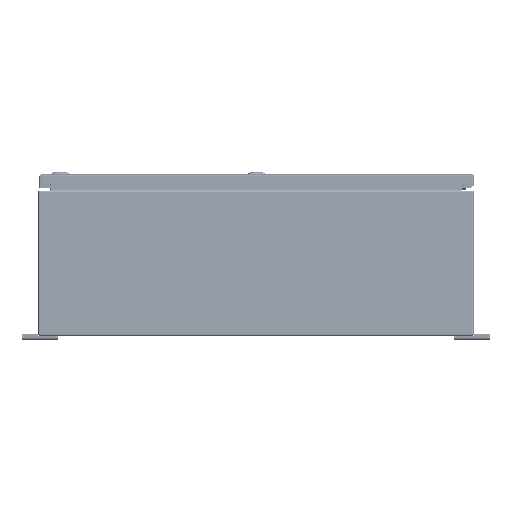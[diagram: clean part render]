
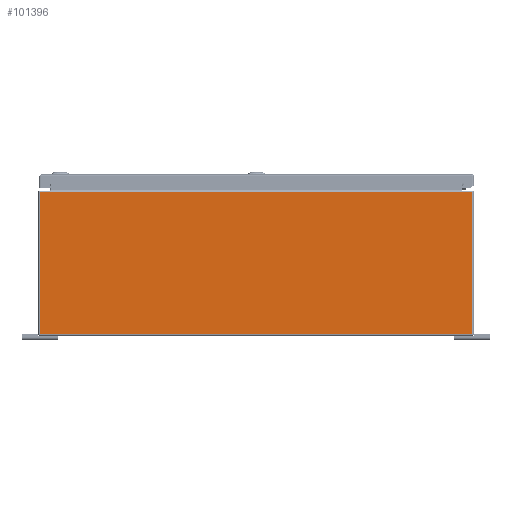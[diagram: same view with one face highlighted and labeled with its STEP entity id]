
A CAD part, left-side view. The second image highlights one B-rep face of the part: STEP entity #101396.
In plain terms, the highlighted planar face has unit normal (-1, 0, 0).
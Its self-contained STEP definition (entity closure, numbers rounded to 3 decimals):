
#6274=PLANE('',#108601);
#8816=LINE('',#143007,#16765);
#8817=LINE('',#143011,#16766);
#8818=LINE('',#143013,#16767);
#8819=LINE('',#143015,#16768);
#8820=LINE('',#143017,#16769);
#8821=LINE('',#143018,#16770);
#16765=VECTOR('',#117520,0.394);
#16766=VECTOR('',#117525,0.394);
#16767=VECTOR('',#117526,0.394);
#16768=VECTOR('',#117527,0.394);
#16769=VECTOR('',#117528,0.394);
#16770=VECTOR('',#117529,0.394);
#26301=FACE_OUTER_BOUND('',#32289,.T.);
#32289=EDGE_LOOP('',(#68677,#68678,#68679,#68680,#68681,#68682));
#42623=VERTEX_POINT('',#142989);
#42630=VERTEX_POINT('',#143006);
#42631=VERTEX_POINT('',#143010);
#42632=VERTEX_POINT('',#143012);
#42633=VERTEX_POINT('',#143014);
#42634=VERTEX_POINT('',#143016);
#52803=EDGE_CURVE('',#42623,#42630,#8816,.T.);
#52805=EDGE_CURVE('',#42631,#42623,#8817,.T.);
#52806=EDGE_CURVE('',#42631,#42632,#8818,.T.);
#52807=EDGE_CURVE('',#42633,#42632,#8819,.T.);
#52808=EDGE_CURVE('',#42634,#42633,#8820,.T.);
#52809=EDGE_CURVE('',#42634,#42630,#8821,.T.);
#68677=ORIENTED_EDGE('',*,*,#52805,.F.);
#68678=ORIENTED_EDGE('',*,*,#52806,.T.);
#68679=ORIENTED_EDGE('',*,*,#52807,.F.);
#68680=ORIENTED_EDGE('',*,*,#52808,.F.);
#68681=ORIENTED_EDGE('',*,*,#52809,.T.);
#68682=ORIENTED_EDGE('',*,*,#52803,.F.);
#101396=ADVANCED_FACE('',(#26301),#6274,.F.);
#108601=AXIS2_PLACEMENT_3D('',#143009,#117523,#117524);
#117520=DIRECTION('',(0.,0.,-1.));
#117523=DIRECTION('center_axis',(1.,0.,0.));
#117524=DIRECTION('ref_axis',(0.,0.,-1.));
#117525=DIRECTION('',(0.,-1.,0.));
#117526=DIRECTION('',(0.,1.,0.));
#117527=DIRECTION('',(0.,-1.,0.));
#117528=DIRECTION('',(0.,0.,1.));
#117529=DIRECTION('',(0.,-1.,0.));
#142989=CARTESIAN_POINT('',(-21.,-14.901,9.901));
#143006=CARTESIAN_POINT('',(-21.,-14.901,0.099));
#143007=CARTESIAN_POINT('',(-21.,-14.901,5.));
#143009=CARTESIAN_POINT('Origin',(-21.,0.,5.));
#143010=CARTESIAN_POINT('',(-21.,-14.126,9.901));
#143011=CARTESIAN_POINT('',(-21.,-7.475,9.901));
#143012=CARTESIAN_POINT('',(-21.,14.126,9.901));
#143013=CARTESIAN_POINT('',(-21.,7.455,9.901));
#143014=CARTESIAN_POINT('',(-21.,14.901,9.901));
#143015=CARTESIAN_POINT('',(-21.,-7.475,9.901));
#143016=CARTESIAN_POINT('',(-21.,14.901,0.099));
#143017=CARTESIAN_POINT('',(-21.,14.901,5.));
#143018=CARTESIAN_POINT('',(-21.,7.5,0.099));
